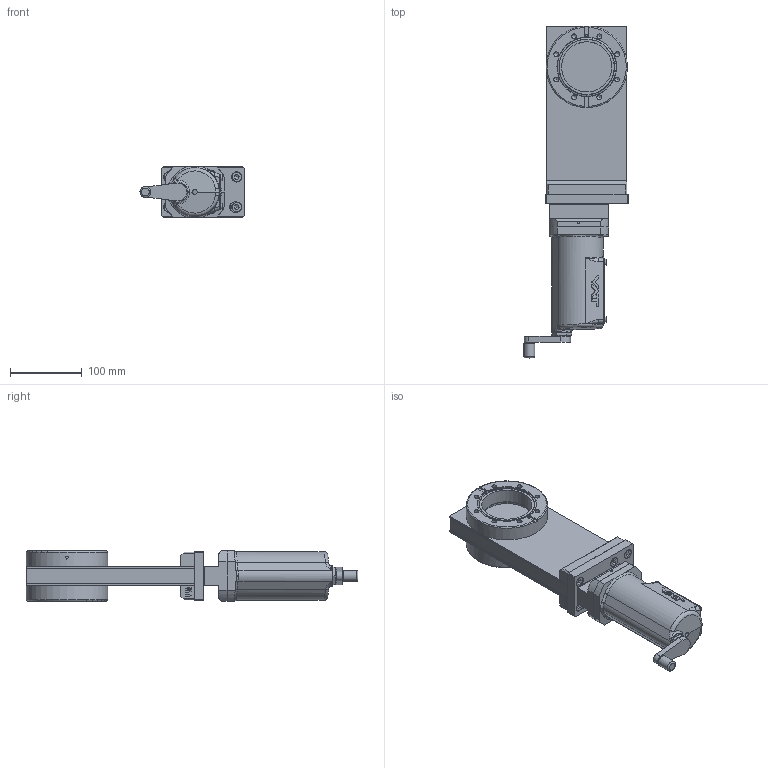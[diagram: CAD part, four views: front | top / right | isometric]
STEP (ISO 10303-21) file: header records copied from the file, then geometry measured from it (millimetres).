
FILE_DESCRIPTION(/* description */ (''),/* implementation_level */ '2;1');
FILE_NAME(/* name */ '1041838342_203.stp',/* time_stamp */ '2021-11-16T07:42:10+01:00',/* author */ (''),/* organization */ (''),/* preprocessor_version */ 'ST-DEVELOPER v16.7',/* originating_system */ 'SIEMENS PLM Software NX 1915',/* authorisation */ '');
FILE_SCHEMA (('AP203_CONFIGURATION_CONTROLLED_3D_DESIGN_OF_MECHANICAL_PARTS_AND_ASSEMBLIES_MIM_LF { 1 0 10303 403 2 1 2}'));
Length unit declared in the file: millimetre
Products named in the file (25): 441451_29724ID; 21436-01.1_29418ID; 21437-01.1_29637ID; 21438-01.1; 441451_29421ID; 21437-01.1_29698ID; 21436-01.1_29646ID; N-6024-538.1; 404139; 82480-R1_1.2; 78964-01_01.1; 79149-01.1; 79148-01.1; 21450-01.1_29676ID; 21450-01.1; n-6099-454.1; 501138; 348352.1; 919608; 218198.1; 439016; 82480-r1.3; 22974-r1.2_MODEL; 22973.2_MODEL; 1077637
Assembly tree (33 placements, depth 4):
  1077637
    22973.2_MODEL
      n-6099-454.1  x2
      21450-01.1
      21450-01.1_29676ID
      22974-r1.2_MODEL
        21436-01.1_29646ID
        21437-01.1_29698ID
        441451_29421ID
        21438-01.1
        21437-01.1_29637ID
        21436-01.1_29418ID
        441451_29724ID
    82480-r1.3
      79148-01.1
      79149-01.1
      78964-01_01.1
      82480-R1_1.2
    218198.1  x6
    439016
      404139
      N-6024-538.1  x4
    919608
    348352.1
    501138
Bounding box: 145.15 x 463.23 x 70 mm (x, y, z)
Volume: 1002023.5 mm3; surface area: 367934 mm2
Topology: 98 solids, 98 shells, 1163 faces, 2860 edges, 1953 vertices
Faces by surface type: plane 765, cylinder 244, cone 76, bspline 32, torus 22, extrusion 20, sphere 4
Full cylindrical faces by diameter (mm): 2.8 x2, 3 x1, 4 x10, 4.3 x4, 4.35 x4, 4.5 x2, 4.625 x4, 5 x1, 5.2 x4, 6 x1, 6.66 x6, 6.7 x6, 6.8 x28, 7 x9, 8 x16, 8.5 x4, 8.55 x4, 9 x6, 13 x6, 14.1 x8, 15 x1, 20 x1, 28 x2, 60 x1, 70.1 x5, 84.25 x2, 113.5 x2
Entity records: 38198 total; most frequent: CARTESIAN_POINT 12010, ORIENTED_EDGE 4550, DIRECTION 4420, EDGE_CURVE 2275, VERTEX_POINT 1688, AXIS2_PLACEMENT_3D 1519, VECTOR 1382, LINE 1362
